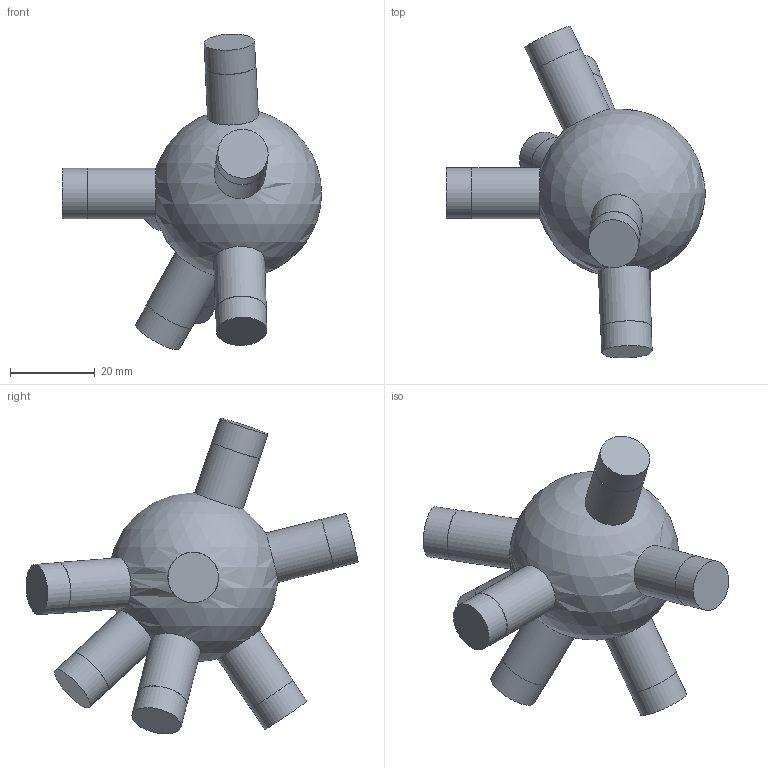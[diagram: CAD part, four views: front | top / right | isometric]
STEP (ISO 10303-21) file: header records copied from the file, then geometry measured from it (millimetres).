
FILE_DESCRIPTION(('Open CASCADE Model'),'2;1');
FILE_NAME('Open CASCADE Shape Model','2026-10-21T12:47:57',('Author'),( 'Open CASCADE'),'Open CASCADE STEP processor 7.9','Open CASCADE 7.9' ,'Unknown');
FILE_SCHEMA(('AUTOMOTIVE_DESIGN { 1 0 10303 214 1 1 1 1 }'));
Length unit declared in the file: millimetre
Products named in the file (1): Open CASCADE STEP translator 7.9 144
Bounding box: 61.11 x 78.31 x 74.49 mm (x, y, z)
Volume: 49325.1 mm3; surface area: 10409.2 mm2
Topology: 1 solids, 1 shells, 29 faces, 49 edges, 33 vertices
Faces by surface type: cylinder 14, plane 14, sphere 1
Full cylindrical faces by diameter (mm): 11.9 x7, 12 x7
Entity records: 2007 total; most frequent: CARTESIAN_POINT 941, DIRECTION 217, ORIENTED_EDGE 92, PCURVE 92, DEFINITIONAL_REPRESENTATION 92, LINE 72, VECTOR 72, AXIS2_PLACEMENT_3D 62
